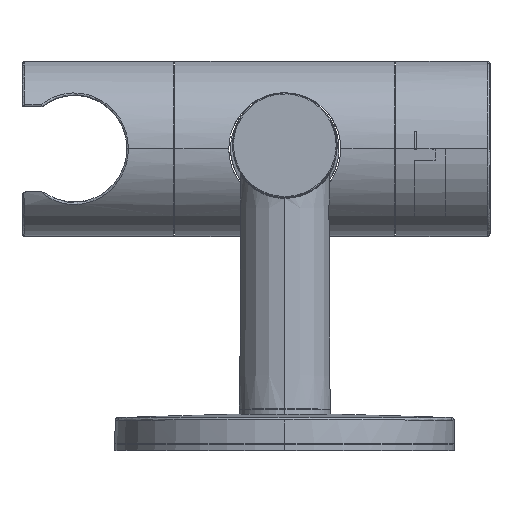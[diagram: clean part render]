
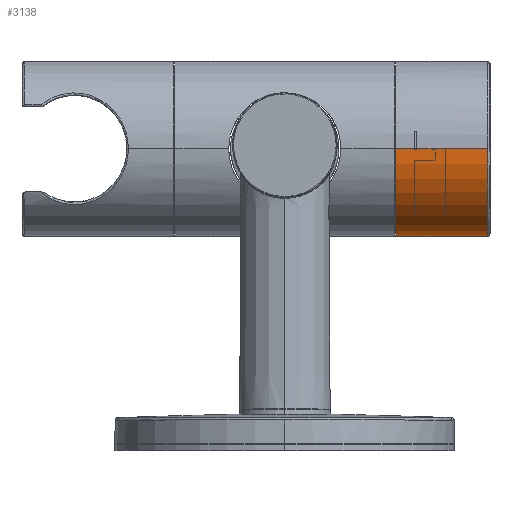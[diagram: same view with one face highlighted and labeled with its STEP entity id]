
A CAD part, top view. The second image highlights one B-rep face of the part: STEP entity #3138.
In plain terms, the highlighted cylindrical face has radius 16.75 mm (diameter 33.5 mm), a partial arc.
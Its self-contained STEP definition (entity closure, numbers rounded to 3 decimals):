
#74 = DIRECTION ( 'NONE',  ( -1., 0., 0. ) ) ;
#282 = CIRCLE ( 'NONE', #5666, 16.75 ) ;
#586 = EDGE_CURVE ( 'NONE', #6007, #4324, #282, .T. ) ;
#597 = EDGE_CURVE ( 'NONE', #6806, #7174, #4300, .T. ) ;
#814 = CARTESIAN_POINT ( 'NONE',  ( 21.2, -0.001, 0. ) ) ;
#882 = CARTESIAN_POINT ( 'NONE',  ( 21.2, -0.001, 16.75 ) ) ;
#1483 = DIRECTION ( 'NONE',  ( 1., 0., 0. ) ) ;
#1622 = EDGE_CURVE ( 'NONE', #2891, #6806, #2970, .T. ) ;
#1824 = ORIENTED_EDGE ( 'NONE', *, *, #1622, .T. ) ;
#2235 = DIRECTION ( 'NONE',  ( 1., 0., 0. ) ) ;
#2730 = EDGE_CURVE ( 'NONE', #4324, #2891, #5910, .T. ) ;
#2891 = VERTEX_POINT ( 'NONE', #4557 ) ;
#2970 = CIRCLE ( 'NONE', #7068, 16.75 ) ;
#3138 = ADVANCED_FACE ( 'NONE', ( #3140 ), #4585, .T. ) ;
#3140 = FACE_OUTER_BOUND ( 'NONE', #3866, .T. ) ;
#3223 = LINE ( 'NONE', #882, #4666 ) ;
#3330 = AXIS2_PLACEMENT_3D ( 'NONE', #814, #4791, #4811 ) ;
#3428 = EDGE_CURVE ( 'NONE', #6007, #7174, #3223, .T. ) ;
#3638 = CARTESIAN_POINT ( 'NONE',  ( 21.2, -0.001, 16.75 ) ) ;
#3651 = AXIS2_PLACEMENT_3D ( 'NONE', #6353, #74, #4569 ) ;
#3790 = CARTESIAN_POINT ( 'NONE',  ( 21.2, -0.001, -16.75 ) ) ;
#3866 = EDGE_LOOP ( 'NONE', ( #5305, #4818, #5025, #1824, #4284 ) ) ;
#4284 = ORIENTED_EDGE ( 'NONE', *, *, #597, .T. ) ;
#4300 = CIRCLE ( 'NONE', #3651, 16.75 ) ;
#4324 = VERTEX_POINT ( 'NONE', #4933 ) ;
#4557 = CARTESIAN_POINT ( 'NONE',  ( 38.7, -0.001, -16.75 ) ) ;
#4569 = DIRECTION ( 'NONE',  ( 0., 0., -1. ) ) ;
#4585 = CYLINDRICAL_SURFACE ( 'NONE', #3330, 16.75 ) ;
#4666 = VECTOR ( 'NONE', #1483, 1000. ) ;
#4791 = DIRECTION ( 'NONE',  ( 1., 0., 0. ) ) ;
#4811 = DIRECTION ( 'NONE',  ( 0., 0., -1. ) ) ;
#4818 = ORIENTED_EDGE ( 'NONE', *, *, #586, .T. ) ;
#4872 = CARTESIAN_POINT ( 'NONE',  ( 38.7, -16.751, 0.088 ) ) ;
#4896 = DIRECTION ( 'NONE',  ( -1., 0., 0. ) ) ;
#4933 = CARTESIAN_POINT ( 'NONE',  ( 21.2, -0.001, -16.75 ) ) ;
#5017 = VECTOR ( 'NONE', #2235, 1000. ) ;
#5025 = ORIENTED_EDGE ( 'NONE', *, *, #2730, .T. ) ;
#5305 = ORIENTED_EDGE ( 'NONE', *, *, #3428, .F. ) ;
#5415 = CARTESIAN_POINT ( 'NONE',  ( 38.7, -0.001, 16.75 ) ) ;
#5517 = CARTESIAN_POINT ( 'NONE',  ( 38.7, -0.001, 0. ) ) ;
#5666 = AXIS2_PLACEMENT_3D ( 'NONE', #6859, #5760, #5687 ) ;
#5687 = DIRECTION ( 'NONE',  ( 0., 0., -1. ) ) ;
#5760 = DIRECTION ( 'NONE',  ( 1., 0., 0. ) ) ;
#5910 = LINE ( 'NONE', #3790, #5017 ) ;
#6002 = DIRECTION ( 'NONE',  ( 0., 0., -1. ) ) ;
#6007 = VERTEX_POINT ( 'NONE', #3638 ) ;
#6353 = CARTESIAN_POINT ( 'NONE',  ( 38.7, -0.001, 0. ) ) ;
#6806 = VERTEX_POINT ( 'NONE', #4872 ) ;
#6859 = CARTESIAN_POINT ( 'NONE',  ( 21.2, -0.001, 0. ) ) ;
#7068 = AXIS2_PLACEMENT_3D ( 'NONE', #5517, #4896, #6002 ) ;
#7174 = VERTEX_POINT ( 'NONE', #5415 ) ;
